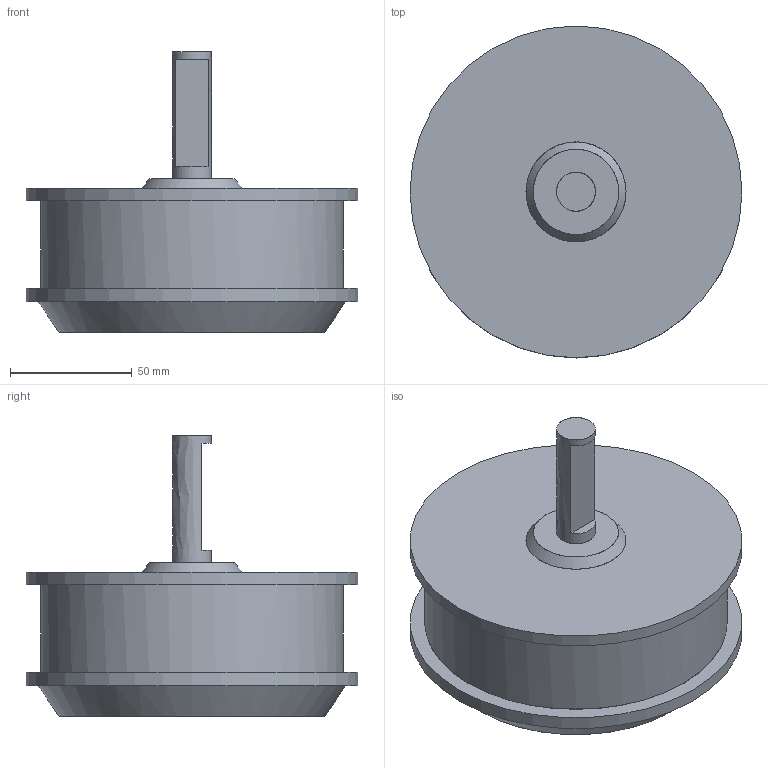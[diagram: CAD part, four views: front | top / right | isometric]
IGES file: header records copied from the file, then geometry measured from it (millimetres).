
Global section: file name: Filename.iges; native system: Open CASCADE 7.5; preprocessor: Open CASCADE IGES processor 7.5; date: 20211123.175517; units: millimetre
Bounding box: 136 x 136 x 115 mm (x, y, z)
Surface area: 59023.9 mm2 (no closed solid volume)
Topology: 0 solids, 0 shells, 35 faces, 155 edges, 141 vertices
Faces by surface type: plane 20, revolution 15
